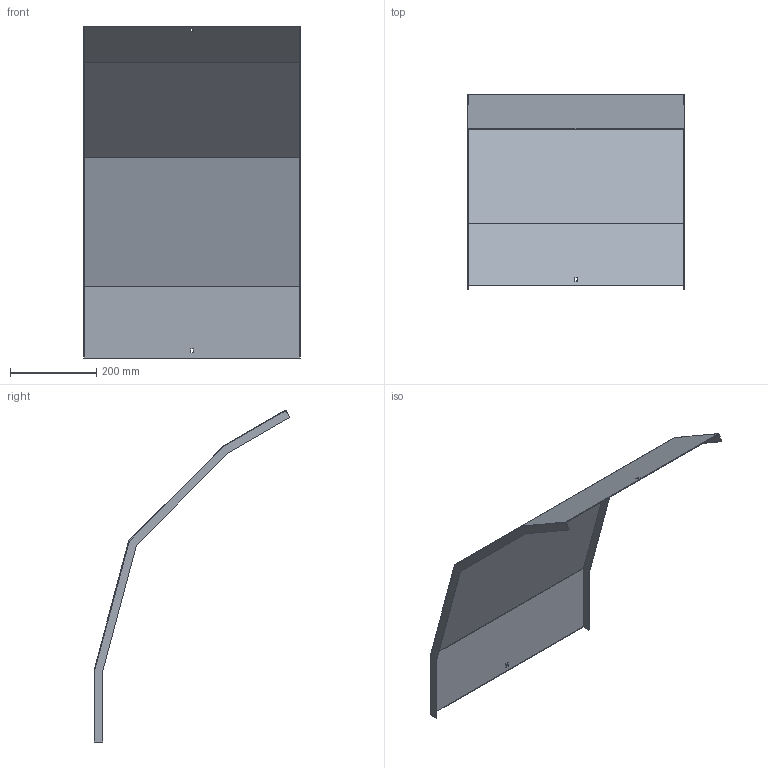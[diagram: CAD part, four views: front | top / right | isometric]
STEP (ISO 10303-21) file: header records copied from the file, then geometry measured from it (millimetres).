
FILE_DESCRIPTION (( 'STEP AP214' ), '1' );
FILE_NAME ('41N5J500.step', '2025-02-21T10:38:46', ( '' ), ( '' ), 'SwSTEP 2.0', 'SolidWorks 2023', '' );
FILE_SCHEMA (( 'AUTOMOTIVE_DESIGN' ));
Length unit declared in the file: millimetre
Products named in the file (1): 41N5J500
Bounding box: 503 x 454.7 x 770.25 mm (x, y, z)
Volume: 772342 mm3; surface area: 1034306.7 mm2
Topology: 1 solids, 1 shells, 30 faces, 84 edges, 56 vertices
Faces by surface type: plane 30
Entity records: 979 total; most frequent: CARTESIAN_POINT 171, ORIENTED_EDGE 168, DIRECTION 146, EDGE_CURVE 84, VECTOR 84, LINE 84, VERTEX_POINT 56, EDGE_LOOP 34
